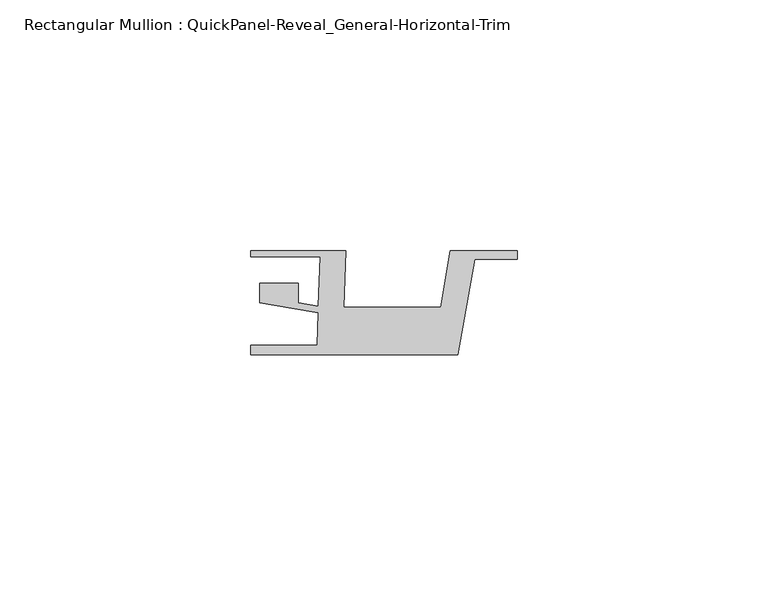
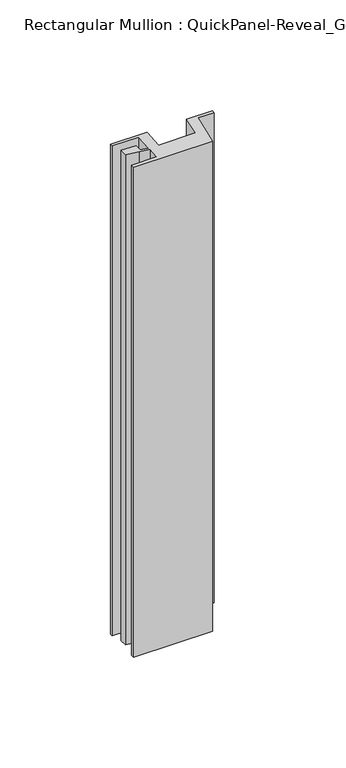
"""IFC4 building model written with IfcOpenShell, lengths in millimetres: member geometry, Rectangular Mullion : QuickPanel-Reveal_General-Horizontal-Trim."""

from ifc_helpers import new_model, si_unit, frame, origin, place, context, project, spatial, polyline, outline, extrude, source, transform, mapped, element, save


def rectangular_mullion_quickpanel_reveal_general_horizontal_d0f672b7(model_context):
    return source(origin(), model_context, "Body", "SweptSolid", [
        extrude(outline(polyline([(-53.1926881, -8.6293878), (-53.1926881, -6.6935423), (-39.9517754, -6.6935423), (-39.7249902, -0.1992641), (-44.9752711, 0.7008023), (-51.4106037, 1.8040245), (-51.4106037, 5.6493034), (-43.6658306, 5.6493034), (-43.6658306, 1.7648465), (-39.6802617, 1.0815922), (-39.3363347, 10.9303752), (-53.1926881, 10.9303752), (-53.1926881, 12.1803727), (-34.2095873, 12.1803727), (-34.6033563, 0.9043028), (-15.3127056, 0.9043028), (-13.3796258, 12.1803727), (0.0, 12.1803727), (0.0, 10.4985348), (-8.5254306, 10.4985348), (-11.8981995, -8.6293878), (-53.1926881, -8.6293878)])), frame((0.0, 0.0, -270.2913318), z_axis=(0.0, 0.0, 1.0), x_axis=(1.0, 0.0, 0.0)), (0.0, 0.0, 1.0), 270.2913318),
    ])


if __name__ == "__main__":
    model = new_model("IFC4")
    model_context = context("Model", 3, world=origin())
    ifc_project = project(units=[si_unit("LENGTHUNIT", "METRE", prefix="MILLI")], contexts=[model_context])
    site = spatial("IfcSite", under=ifc_project)
    building = spatial("IfcBuilding", under=site)
    placement = place(None, origin())
    rectangular_mullion_quickpanel_reveal_general_horizontal_shape = rectangular_mullion_quickpanel_reveal_general_horizontal_d0f672b7(model_context)
    element("IfcMember", 1, ObjectType="Rectangular Mullion : QuickPanel-Reveal_General-Horizontal-Trim", at=placement, inside=building, context=model_context, shape_type="MappedRepresentation", body=[
        mapped(rectangular_mullion_quickpanel_reveal_general_horizontal_shape, transform((0.0, 0.0, 0.0), x_axis=(1.0, 0.0, 0.0), y_axis=(0.0, 1.0, 0.0), z_axis=(0.0, 0.0, 1.0))),
    ])
    save(model, "model.ifc")
